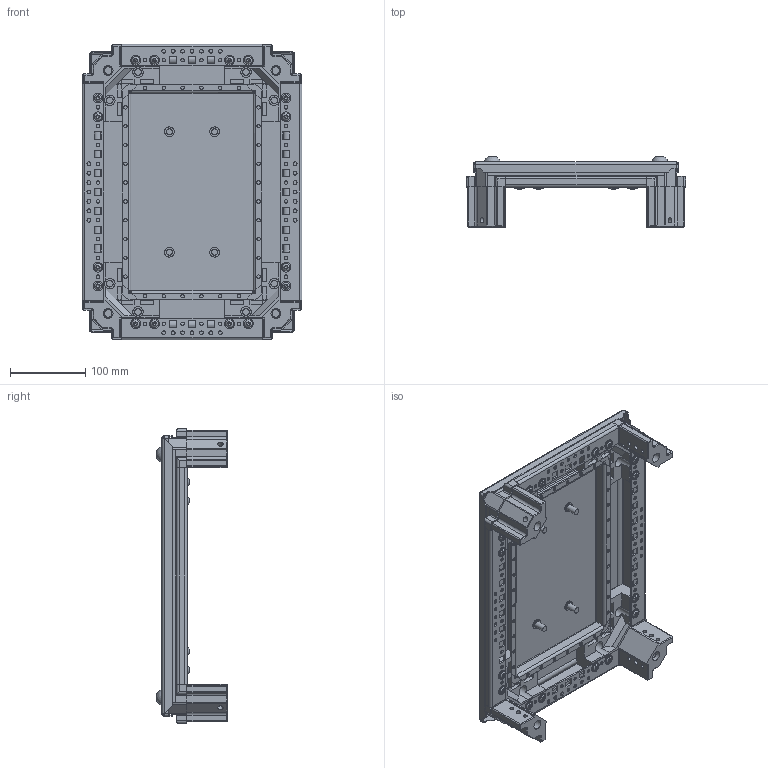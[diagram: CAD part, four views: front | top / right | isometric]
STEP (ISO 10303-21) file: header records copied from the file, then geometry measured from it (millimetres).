
FILE_DESCRIPTION(('STEP AP203'), '1');
FILE_NAME('Êðûøà è îñíîâàíèå Ø300õÃ400 ìì IP55 OptiBox M 419586 ÊÝÀÇ', '', ('UNSPECIFIED'), ('UNSPECIFIED'), 'C3D Converter', 'C3D Toolkit', '');
FILE_SCHEMA(('CONFIG_CONTROL_DESIGN'));
Length unit declared in the file: millimetre
Bounding box: 292 x 93 x 392 mm (x, y, z)
Volume: 1266178.7 mm3; surface area: 743224.9 mm2
Topology: 34 solids, 34 shells, 2131 faces, 5340 edges, 3320 vertices
Faces by surface type: plane 1003, cylinder 848, cone 220, sphere 28, bspline 24, torus 8
Full cylindrical faces by diameter (mm): 0.75 x4, 1 x4, 4.6 x64, 5 x60, 5.6 x16, 6 x40, 7 x4, 7.3 x16, 8 x4, 9 x16, 9.3 x4, 10.2 x4, 12 x4, 13 x24, 14 x12, 20 x4, 21 x4
Entity records: 70804 total; most frequent: CARTESIAN_POINT 20012, DIRECTION 10468, ORIENTED_EDGE 9824, EDGE_CURVE 4912, AXIS2_PLACEMENT_3D 3748, VERTEX_POINT 3320, EDGE_LOOP 3012, LINE 2972
